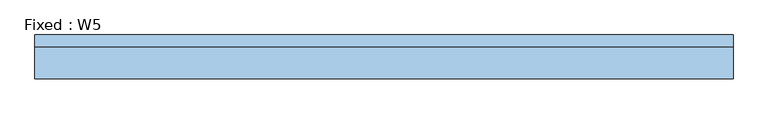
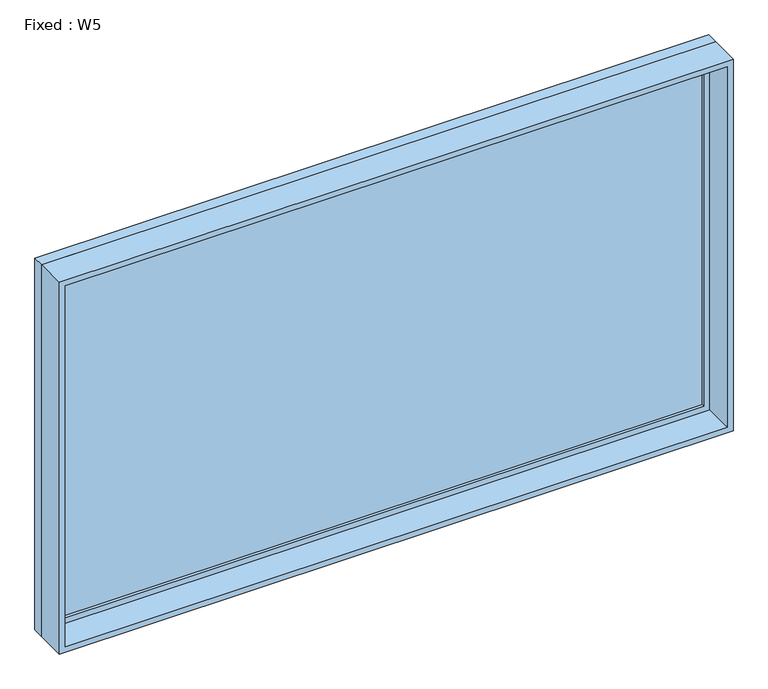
"""IFC4 building model written with IfcOpenShell, lengths in millimetres: window geometry, Fixed : W5."""

from ifc_helpers import new_model, si_unit, frame, origin, place, context, project, spatial, polyline, outline, extrude, source, transform, mapped, element, save


def fixed_w5_01558c50(model_context):
    return source(origin(), model_context, "Body", "SweptSolid", [
        extrude(outline(polyline([(1727.2, 66.675), (-1803.4, 66.675), (-1803.4, 79.375), (1727.2, 79.375), (1727.2, 66.675)])), frame((0.0, 0.0, 977.9), z_axis=(0.0, 0.0, 1.0), x_axis=(1.0, 0.0, 0.0)), (0.0, 0.0, 1.0), 2006.6),
        extrude(outline(polyline([(3028.95, -1847.85), (933.45, -1847.85), (933.45, 1771.65), (3028.95, 1771.65), (3028.95, -1847.85)]), holes=[polyline([(2984.5, -1803.4), (2984.5, 1727.2), (977.9, 1727.2), (977.9, -1803.4), (2984.5, -1803.4)])]), frame((0.0, 50.8, 0.0), z_axis=(0.0, 1.0, 0.0), x_axis=(0.0, 0.0, 1.0)), (0.0, 0.0, 1.0), 44.45),
        extrude(outline(polyline([(3048.0, -1866.9), (914.4, -1866.9), (914.4, 1790.7), (3048.0, 1790.7), (3048.0, -1866.9)]), holes=[polyline([(3016.25, -1835.15), (3016.25, 1758.95), (946.15, 1758.95), (946.15, -1835.15), (3016.25, -1835.15)])]), frame((0.0, -114.3, 0.0), z_axis=(0.0, 1.0, 0.0), x_axis=(0.0, 0.0, 1.0)), (0.0, 0.0, 1.0), 165.1),
        extrude(outline(polyline([(3048.0, 1790.7), (3048.0, -1866.9), (914.4, -1866.9), (914.4, 1790.7), (3048.0, 1790.7)]), holes=[polyline([(3028.95, 1771.65), (933.45, 1771.65), (933.45, -1847.85), (3028.95, -1847.85), (3028.95, 1771.65)])]), frame((0.0, 50.8, 0.0), z_axis=(0.0, 1.0, 0.0), x_axis=(0.0, 0.0, 1.0)), (0.0, 0.0, 1.0), 63.5),
    ])


if __name__ == "__main__":
    model = new_model("IFC4")
    model_context = context("Model", 3, world=origin())
    ifc_project = project(units=[si_unit("LENGTHUNIT", "METRE", prefix="MILLI")], contexts=[model_context])
    site = spatial("IfcSite", under=ifc_project)
    building = spatial("IfcBuilding", under=site)
    placement = place(None, origin())
    fixed_w5_shape = fixed_w5_01558c50(model_context)
    element("IfcWindow", 1, ObjectType="Fixed : W5", at=placement, inside=building, context=model_context, shape_type="MappedRepresentation", body=[
        mapped(fixed_w5_shape, transform((0.0, 0.0, 0.0), x_axis=(1.0, 0.0, 0.0), y_axis=(0.0, 1.0, 0.0), z_axis=(0.0, 0.0, 1.0))),
    ])
    save(model, "model.ifc")
